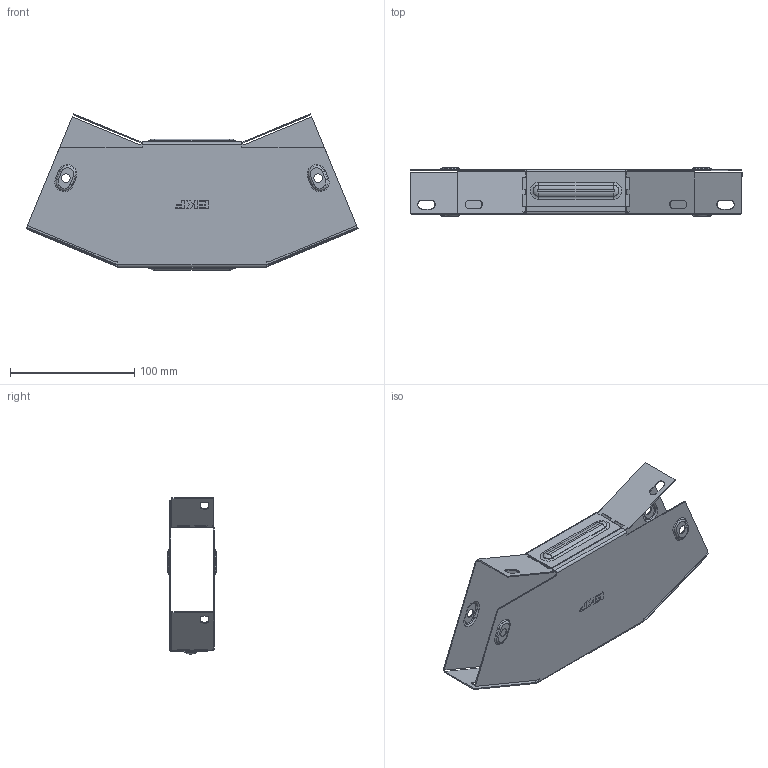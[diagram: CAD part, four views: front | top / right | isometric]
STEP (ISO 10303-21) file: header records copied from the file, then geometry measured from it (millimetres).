
FILE_DESCRIPTION (( 'STEP AP214' ), '1' );
FILE_NAME ('g4535100_捘.STEP', '2019-06-10T08:36:56', ( '砐錪賧瘔蠈錪 Windows' ), ( '' ), 'SwSTEP 2.0', 'SolidWorks 2018', '' );
FILE_SCHEMA (( 'AUTOMOTIVE_DESIGN' ));
Length unit declared in the file: millimetre
Products named in the file (1): g4535100_捘
Bounding box: 266.88 x 38.8 x 125.42 mm (x, y, z)
Volume: 52914.8 mm3; surface area: 134348.8 mm2
Topology: 2 solids, 2 shells, 468 faces, 1248 edges, 796 vertices
Faces by surface type: plane 258, cylinder 128, torus 64, bspline 18
Entity records: 15460 total; most frequent: CARTESIAN_POINT 3532, ORIENTED_EDGE 2496, DIRECTION 2466, EDGE_CURVE 1248, LINE 860, VECTOR 860, AXIS2_PLACEMENT_3D 803, VERTEX_POINT 796
